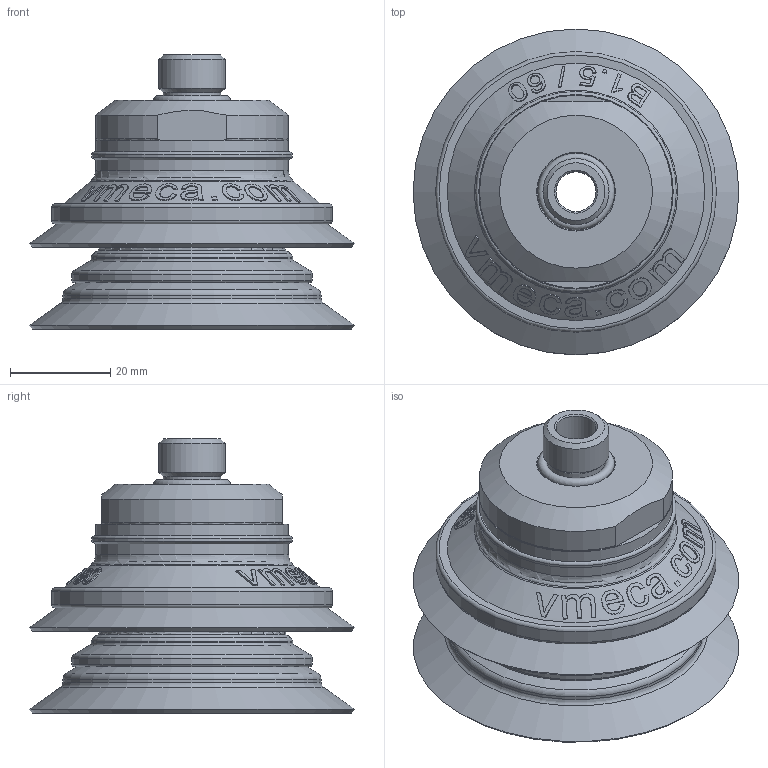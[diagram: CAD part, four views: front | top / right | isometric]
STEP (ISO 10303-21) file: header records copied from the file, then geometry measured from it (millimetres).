
FILE_DESCRIPTION( ( 'Unknown' ), '1' );
FILE_NAME( 'C:/Documents and Settings/Administrator/官帕 拳搁/Magic Cup (Dim)/B1.5/U TYPE/B1.5-60/B1.5-60-U65-N6-D-F2-14M.stp', 'Unknown', ( 'Unknown' ), ( 'Unknown' ), 'XStep 1.0', 'Unknown', ' ' );
FILE_SCHEMA( ( 'automotive_design' ) );
Length unit declared in the file: millimetre
Products named in the file (8): Assem1; Assem2; Assem3; U65(DIM); 赤60 STOPPER-; B1.5-60(DIM); 60-14M; 14M-Oring(DIM)
Bounding box: 65 x 65 x 54.67 mm (x, y, z)
Volume: 124989.4 mm3; surface area: 90154.7 mm2
Topology: 15 solids, 15 shells, 1710 faces, 4299 edges, 2727 vertices
Faces by surface type: plane 549, cylinder 420, torus 321, bspline 225, cone 195
Full cylindrical faces by diameter (mm): 8 x3, 11.5 x3, 13.2 x3, 15.3 x3, 25.5 x3, 26.6 x6, 28 x3, 32 x9, 33 x3, 33.1 x3, 35 x3, 37.2 x6, 38.5 x3, 40 x3, 40.2 x3, 48 x3, 51.5 x3, 56 x3
Entity records: 26834 total; most frequent: CARTESIAN_POINT 14825, ORIENTED_EDGE 2676, DIRECTION 1987, EDGE_CURVE 1338, VERTEX_POINT 901, AXIS2_PLACEMENT_3D 869, B_SPLINE_CURVE_WITH_KNOTS 723, EDGE_LOOP 701
